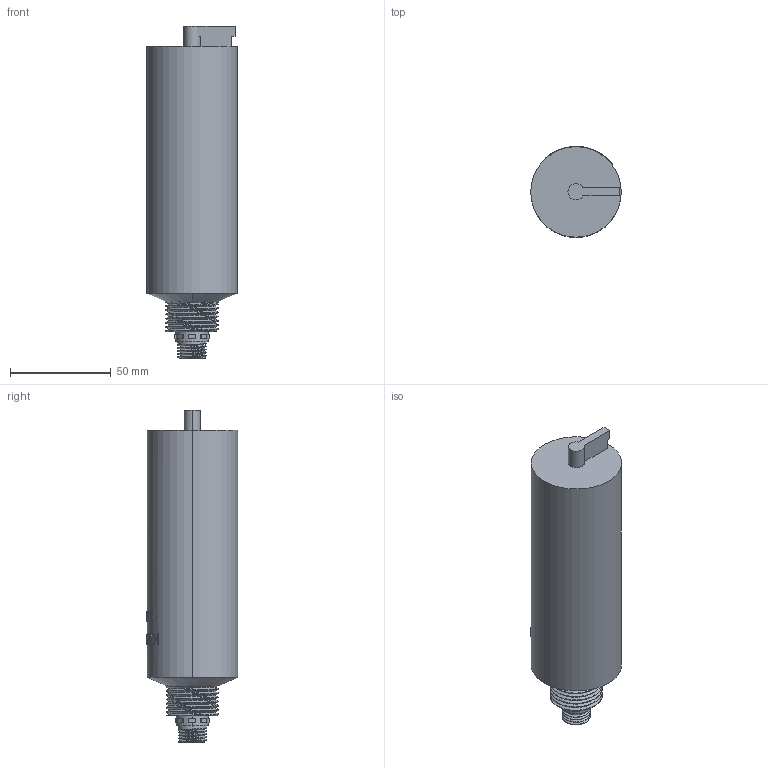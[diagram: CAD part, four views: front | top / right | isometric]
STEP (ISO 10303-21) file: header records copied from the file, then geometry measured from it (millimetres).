
FILE_DESCRIPTION((''),'2;1');
FILE_NAME('ASM0006_ASM','2025-12-29T09:33:52',('28740194'),(''),'CREO PARAMETRIC BY PTC INC, 2024063','CREO PARAMETRIC BY PTC INC, 2024063','');
FILE_SCHEMA(('CONFIG_CONTROL_DESIGN'));
Length unit declared in the file: millimetre
Products named in the file (5): KWS-1003; 0001; 222000; 260_ASM; ASM0006_ASM
Assembly tree (4 placements, depth 3):
  ASM0006_ASM
    KWS-1003
    260_ASM
      0001
      222000
Bounding box: 45 x 45.3 x 165.13 mm (x, y, z)
Volume: 8712.2 mm3; surface area: 25977 mm2
Topology: 2 solids, 5 shells, 504 faces, 1412 edges, 942 vertices
Faces by surface type: bspline 384, plane 62, cylinder 56, cone 2
Entity records: 24626 total; most frequent: CARTESIAN_POINT 14445, ORIENTED_EDGE 2800, EDGE_CURVE 1412, B_SPLINE_CURVE_WITH_KNOTS 988, VERTEX_POINT 942, DIRECTION 871, EDGE_LOOP 533, FACE_OUTER_BOUND 504
